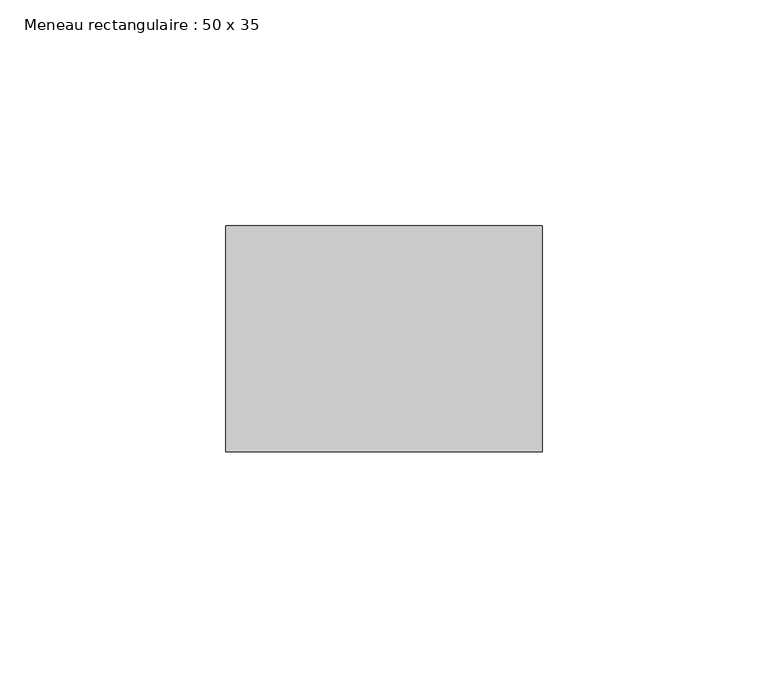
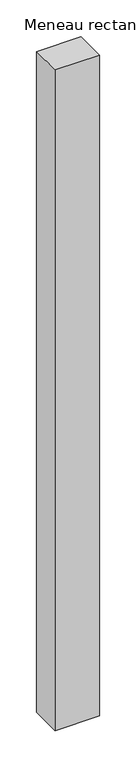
"""IFC4 building model written with IfcOpenShell, lengths in millimetres: member geometry, Meneau rectangulaire : 50 x 35."""

from ifc_helpers import new_model, si_unit, frame, origin, place, context, project, spatial, polyline, outline, extrude, source, transform, mapped, element, save


def meneau_rectangulaire_50_x_35_05001fda(model_context):
    return source(origin(), model_context, "Body", "SweptSolid", [
        extrude(outline(polyline([(35.0, 0.0), (35.0, -50.0), (-35.0, -50.0), (-35.0, 0.0), (35.0, 0.0)])), frame((0.0, 0.0, -1098.6548128), z_axis=(0.0, 0.0, 1.0), x_axis=(1.0, 0.0, 0.0)), (0.0, 0.0, 1.0), 1098.6548128),
    ])


if __name__ == "__main__":
    model = new_model("IFC4")
    model_context = context("Model", 3, world=origin())
    ifc_project = project(units=[si_unit("LENGTHUNIT", "METRE", prefix="MILLI")], contexts=[model_context])
    site = spatial("IfcSite", under=ifc_project)
    building = spatial("IfcBuilding", under=site)
    placement = place(None, origin())
    meneau_rectangulaire_50_x_35_shape = meneau_rectangulaire_50_x_35_05001fda(model_context)
    element("IfcMember", 1, ObjectType="Meneau rectangulaire : 50 x 35", at=placement, inside=building, context=model_context, shape_type="MappedRepresentation", body=[
        mapped(meneau_rectangulaire_50_x_35_shape, transform((0.0, 0.0, 0.0), x_axis=(1.0, 0.0, 0.0), y_axis=(0.0, 1.0, 0.0), z_axis=(0.0, 0.0, 1.0))),
    ])
    save(model, "model.ifc")
